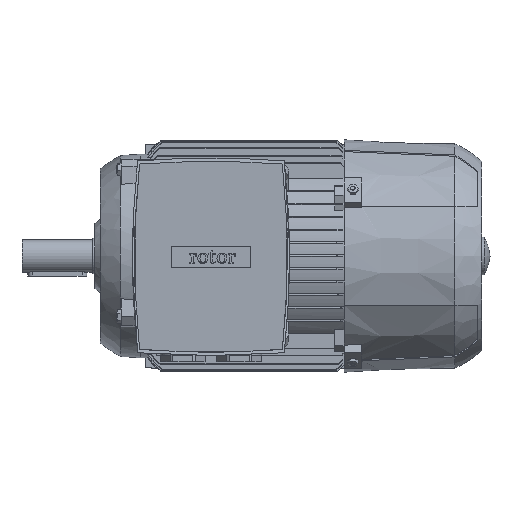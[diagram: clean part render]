
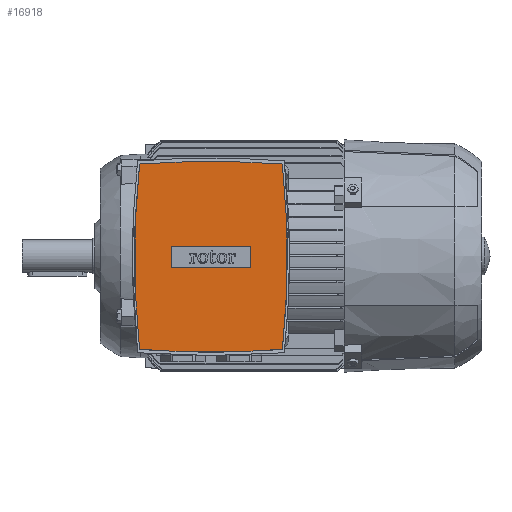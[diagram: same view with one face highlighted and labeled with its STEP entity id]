
A CAD part, top view. The second image highlights one B-rep face of the part: STEP entity #16918.
In plain terms, the highlighted planar face has unit normal (0, 0, 1).
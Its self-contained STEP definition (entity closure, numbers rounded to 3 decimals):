
#143 = ORIENTED_EDGE ( 'NONE', *, *, #20898, .T. ) ;
#426 = EDGE_CURVE ( 'NONE', #6368, #29424, #29722, .T. ) ;
#1477 = DIRECTION ( 'NONE',  ( -1., 0., 0. ) ) ;
#2233 = LINE ( 'NONE', #47538, #12788 ) ;
#3048 = DIRECTION ( 'NONE',  ( 0., 0., -1. ) ) ;
#4373 = CARTESIAN_POINT ( 'NONE',  ( 60., -748.12, 193. ) ) ;
#4996 = CIRCLE ( 'NONE', #5609, 717.2 ) ;
#5557 = ORIENTED_EDGE ( 'NONE', *, *, #8291, .F. ) ;
#5609 = AXIS2_PLACEMENT_3D ( 'NONE', #26889, #3048, #30870 ) ;
#5888 = CARTESIAN_POINT ( 'NONE',  ( 120.661, 77.775, 193. ) ) ;
#6368 = VERTEX_POINT ( 'NONE', #14788 ) ;
#6806 = VERTEX_POINT ( 'NONE', #5888 ) ;
#7227 = VERTEX_POINT ( 'NONE', #48751 ) ;
#7708 = DIRECTION ( 'NONE',  ( 0., 0., -1. ) ) ;
#8291 = EDGE_CURVE ( 'NONE', #29424, #7227, #31189, .T. ) ;
#8350 = DIRECTION ( 'NONE',  ( -1., 0., 0. ) ) ;
#10867 = CIRCLE ( 'NONE', #49437, 828.12 ) ;
#12211 = VECTOR ( 'NONE', #1477, 1000. ) ;
#12444 = ORIENTED_EDGE ( 'NONE', *, *, #20887, .T. ) ;
#12788 = VECTOR ( 'NONE', #43490, 1000. ) ;
#13801 = FACE_BOUND ( 'NONE', #34431, .T. ) ;
#13883 = DIRECTION ( 'NONE',  ( 0., 0., 1. ) ) ;
#14788 = CARTESIAN_POINT ( 'NONE',  ( 120.661, -79.775, 193. ) ) ;
#15216 = AXIS2_PLACEMENT_3D ( 'NONE', #31543, #7708, #35495 ) ;
#16716 = LINE ( 'NONE', #19727, #37818 ) ;
#16918 = ADVANCED_FACE ( 'NONE', ( #34899, #13801 ), #17700, .T. ) ;
#17487 = EDGE_CURVE ( 'NONE', #6806, #6368, #4996, .T. ) ;
#17579 = AXIS2_PLACEMENT_3D ( 'NONE', #37636, #13883, #41631 ) ;
#17700 = PLANE ( 'NONE',  #17579 ) ;
#19727 = CARTESIAN_POINT ( 'NONE',  ( 26.25, -1., 193. ) ) ;
#20221 = ORIENTED_EDGE ( 'NONE', *, *, #426, .F. ) ;
#20887 = EDGE_CURVE ( 'NONE', #25715, #46105, #21715, .T. ) ;
#20898 = EDGE_CURVE ( 'NONE', #23670, #39841, #16716, .T. ) ;
#21715 = LINE ( 'NONE', #46487, #32262 ) ;
#22700 = DIRECTION ( 'NONE',  ( 0., -1., 0. ) ) ;
#23670 = VERTEX_POINT ( 'NONE', #38618 ) ;
#24427 = ORIENTED_EDGE ( 'NONE', *, *, #30308, .F. ) ;
#25715 = VERTEX_POINT ( 'NONE', #38685 ) ;
#26889 = CARTESIAN_POINT ( 'NONE',  ( -592.2, -1., 193. ) ) ;
#28109 = AXIS2_PLACEMENT_3D ( 'NONE', #29581, #29510, #29400 ) ;
#29259 = CARTESIAN_POINT ( 'NONE',  ( 60., -10.05, 193. ) ) ;
#29400 = DIRECTION ( 'NONE',  ( -1., 0., 0. ) ) ;
#29424 = VERTEX_POINT ( 'NONE', #45108 ) ;
#29510 = DIRECTION ( 'NONE',  ( 0., 0., -1. ) ) ;
#29581 = CARTESIAN_POINT ( 'NONE',  ( 60., 746.12, 193. ) ) ;
#29722 = CIRCLE ( 'NONE', #28109, 828.12 ) ;
#29867 = EDGE_CURVE ( 'NONE', #46105, #23670, #33338, .T. ) ;
#30308 = EDGE_CURVE ( 'NONE', #7227, #6806, #10867, .T. ) ;
#30870 = DIRECTION ( 'NONE',  ( -1., 0., 0. ) ) ;
#31189 = CIRCLE ( 'NONE', #15216, 717.2 ) ;
#31543 = CARTESIAN_POINT ( 'NONE',  ( 712.2, -1., 193. ) ) ;
#32179 = DIRECTION ( 'NONE',  ( 0., 0., -1. ) ) ;
#32262 = VECTOR ( 'NONE', #22700, 1000. ) ;
#32298 = EDGE_CURVE ( 'NONE', #39841, #25715, #2233, .T. ) ;
#33338 = LINE ( 'NONE', #29259, #12211 ) ;
#33364 = CARTESIAN_POINT ( 'NONE',  ( 93.75, -10.05, 193. ) ) ;
#34431 = EDGE_LOOP ( 'NONE', ( #48028, #12444, #40560, #143 ) ) ;
#34899 = FACE_OUTER_BOUND ( 'NONE', #35285, .T. ) ;
#35285 = EDGE_LOOP ( 'NONE', ( #24427, #5557, #20221, #39336 ) ) ;
#35495 = DIRECTION ( 'NONE',  ( -1., 0., 0. ) ) ;
#37636 = CARTESIAN_POINT ( 'NONE',  ( 60., -1., 193. ) ) ;
#37818 = VECTOR ( 'NONE', #47526, 1000. ) ;
#38618 = CARTESIAN_POINT ( 'NONE',  ( 26.25, -10.05, 193. ) ) ;
#38685 = CARTESIAN_POINT ( 'NONE',  ( 93.75, 8.05, 193. ) ) ;
#39336 = ORIENTED_EDGE ( 'NONE', *, *, #17487, .F. ) ;
#39841 = VERTEX_POINT ( 'NONE', #43213 ) ;
#40560 = ORIENTED_EDGE ( 'NONE', *, *, #29867, .T. ) ;
#41631 = DIRECTION ( 'NONE',  ( 1., 0., 0. ) ) ;
#43213 = CARTESIAN_POINT ( 'NONE',  ( 26.25, 8.05, 193. ) ) ;
#43490 = DIRECTION ( 'NONE',  ( 1., 0., 0. ) ) ;
#45108 = CARTESIAN_POINT ( 'NONE',  ( -0.661, -79.775, 193. ) ) ;
#46105 = VERTEX_POINT ( 'NONE', #33364 ) ;
#46487 = CARTESIAN_POINT ( 'NONE',  ( 93.75, -1., 193. ) ) ;
#47526 = DIRECTION ( 'NONE',  ( 0., 1., 0. ) ) ;
#47538 = CARTESIAN_POINT ( 'NONE',  ( 60., 8.05, 193. ) ) ;
#48028 = ORIENTED_EDGE ( 'NONE', *, *, #32298, .T. ) ;
#48751 = CARTESIAN_POINT ( 'NONE',  ( -0.661, 77.775, 193. ) ) ;
#49437 = AXIS2_PLACEMENT_3D ( 'NONE', #4373, #32179, #8350 ) ;
